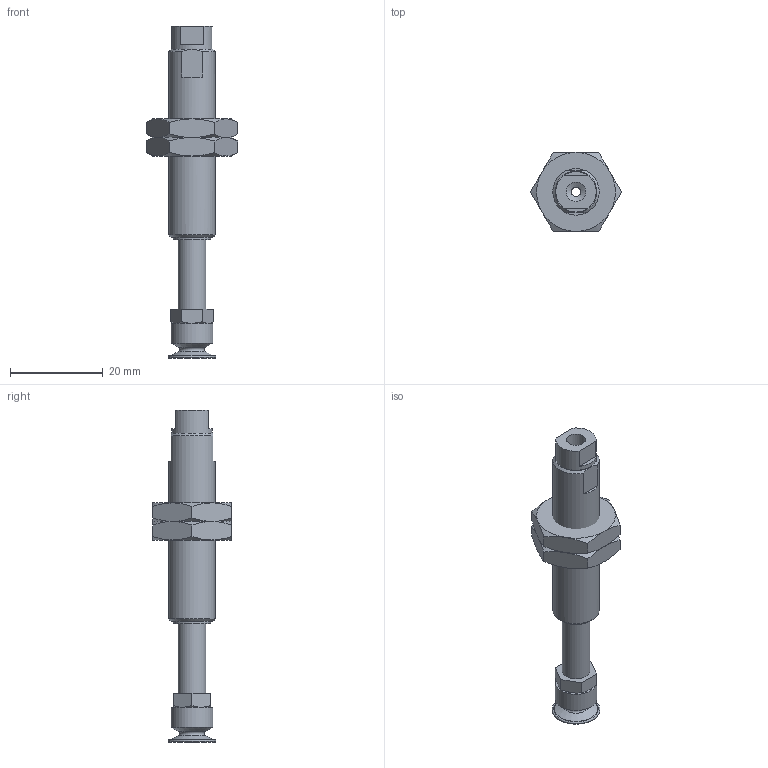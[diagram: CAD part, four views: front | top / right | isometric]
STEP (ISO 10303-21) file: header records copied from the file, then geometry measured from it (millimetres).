
FILE_DESCRIPTION(('STEP AP203'),'1');
FILE_NAME('-LB.stp','2025-10-10T05:07:55',(' '),(' '),'Spatial InterOp 3D',' ',' ');
FILE_SCHEMA(('CONFIG_CONTROL_DESIGN'));
Length unit declared in the file: millimetre
Products named in the file (8): BNAPFTH-10A-15-※-LB; NUT; __; BODY; TN-PS-10-M5; Setting screws-TN-PS-10-M5; BPAG-10B-※
Assembly tree (7 placements, depth 3):
  BNAPFTH-10A-15-※-LB
    NUT
    NUT
    __
    BODY
    TN-PS-10-M5
      Setting screws-TN-PS-10-M5
    BPAG-10B-※
Bounding box: 19.63 x 17 x 71.5 mm (x, y, z)
Volume: 5608.7 mm3; surface area: 4702.6 mm2
Topology: 6 solids, 6 shells, 160 faces, 366 edges, 226 vertices
Faces by surface type: plane 82, cone 41, cylinder 27, torus 10
Full cylindrical faces by diameter (mm): 2 x3, 3.9 x1, 4 x2, 4.2 x2, 5 x1, 6 x3, 7 x1, 8 x1, 8.7 x1, 9 x3, 10 x1
Entity records: 4732 total; most frequent: CARTESIAN_POINT 937, DIRECTION 722, ORIENTED_EDGE 638, EDGE_CURVE 319, AXIS2_PLACEMENT_3D 298, EDGE_LOOP 218, VERTEX_POINT 217, FACE_OUTER_BOUND 189
